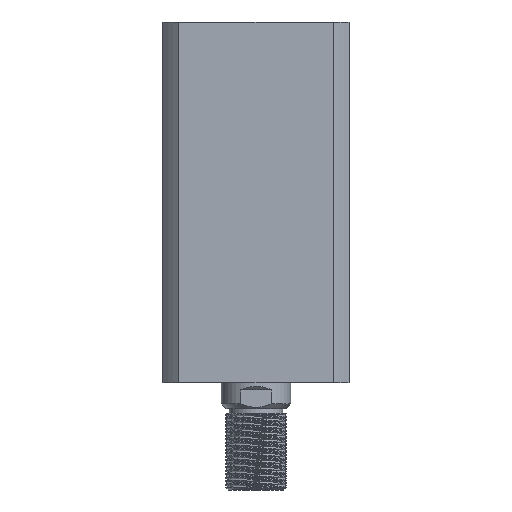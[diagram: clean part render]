
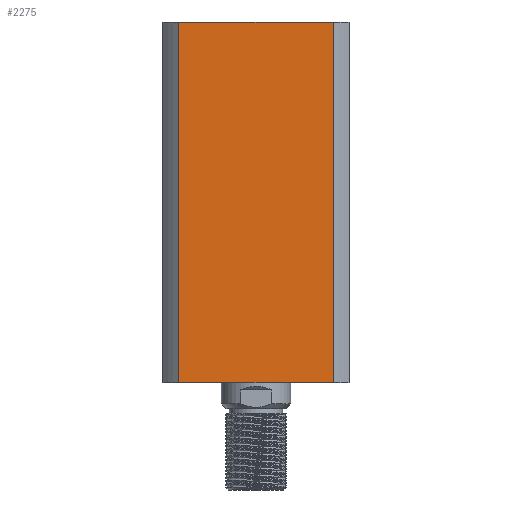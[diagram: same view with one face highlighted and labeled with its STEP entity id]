
A CAD part, left-side view. The second image highlights one B-rep face of the part: STEP entity #2275.
In plain terms, the highlighted planar face has unit normal (-1, 0, 0).
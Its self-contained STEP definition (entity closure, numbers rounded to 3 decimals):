
#97 = DIRECTION ( 'NONE',  ( 0., -1., 0. ) ) ;
#240 = ORIENTED_EDGE ( 'NONE', *, *, #15162, .F. ) ;
#2275 = ADVANCED_FACE ( 'NONE', ( #15222 ), #10940, .F. ) ;
#2389 = ORIENTED_EDGE ( 'NONE', *, *, #13266, .T. ) ;
#2493 = DIRECTION ( 'NONE',  ( 1., 0., 0. ) ) ;
#2615 = DIRECTION ( 'NONE',  ( 0., 0., -1. ) ) ;
#2742 = LINE ( 'NONE', #11965, #15091 ) ;
#3596 = LINE ( 'NONE', #6761, #13784 ) ;
#4045 = CARTESIAN_POINT ( 'NONE',  ( -40., 33.226, 77.5 ) ) ;
#4174 = DIRECTION ( 'NONE',  ( 0., 0., -1. ) ) ;
#4700 = VERTEX_POINT ( 'NONE', #12878 ) ;
#5397 = CARTESIAN_POINT ( 'NONE',  ( -40., -33.226, -77.5 ) ) ;
#6761 = CARTESIAN_POINT ( 'NONE',  ( -40., -33.226, 77.5 ) ) ;
#7100 = EDGE_LOOP ( 'NONE', ( #2389, #7716, #240, #10022 ) ) ;
#7716 = ORIENTED_EDGE ( 'NONE', *, *, #14703, .F. ) ;
#8398 = AXIS2_PLACEMENT_3D ( 'NONE', #4045, #2493, #10995 ) ;
#8471 = VERTEX_POINT ( 'NONE', #11394 ) ;
#8524 = CARTESIAN_POINT ( 'NONE',  ( -40., 33.226, 77.5 ) ) ;
#9022 = LINE ( 'NONE', #16646, #13162 ) ;
#9864 = LINE ( 'NONE', #12269, #13566 ) ;
#10022 = ORIENTED_EDGE ( 'NONE', *, *, #14656, .T. ) ;
#10357 = VERTEX_POINT ( 'NONE', #5397 ) ;
#10940 = PLANE ( 'NONE',  #8398 ) ;
#10995 = DIRECTION ( 'NONE',  ( 0., 1., 0. ) ) ;
#11394 = CARTESIAN_POINT ( 'NONE',  ( -40., 33.226, -77.5 ) ) ;
#11965 = CARTESIAN_POINT ( 'NONE',  ( -40., 33.226, 77.5 ) ) ;
#12269 = CARTESIAN_POINT ( 'NONE',  ( -40., 33.226, 77.5 ) ) ;
#12878 = CARTESIAN_POINT ( 'NONE',  ( -40., -33.226, 77.5 ) ) ;
#13162 = VECTOR ( 'NONE', #97, 1000. ) ;
#13266 = EDGE_CURVE ( 'NONE', #8471, #10357, #9022, .T. ) ;
#13566 = VECTOR ( 'NONE', #16452, 1000. ) ;
#13784 = VECTOR ( 'NONE', #2615, 1000. ) ;
#14597 = VERTEX_POINT ( 'NONE', #8524 ) ;
#14656 = EDGE_CURVE ( 'NONE', #14597, #8471, #2742, .T. ) ;
#14703 = EDGE_CURVE ( 'NONE', #4700, #10357, #3596, .T. ) ;
#15091 = VECTOR ( 'NONE', #4174, 1000. ) ;
#15162 = EDGE_CURVE ( 'NONE', #14597, #4700, #9864, .T. ) ;
#15222 = FACE_OUTER_BOUND ( 'NONE', #7100, .T. ) ;
#16452 = DIRECTION ( 'NONE',  ( 0., -1., 0. ) ) ;
#16646 = CARTESIAN_POINT ( 'NONE',  ( -40., 33.226, -77.5 ) ) ;
